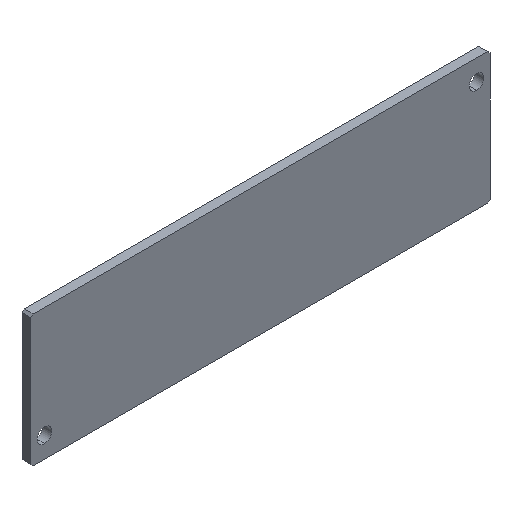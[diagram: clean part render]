
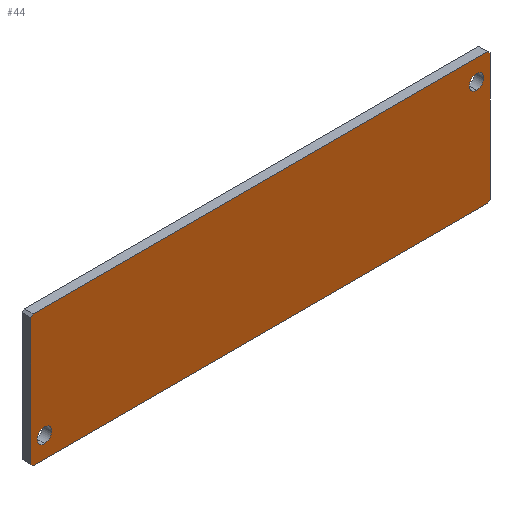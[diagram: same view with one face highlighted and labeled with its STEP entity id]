
A CAD part, isometric view. The second image highlights one B-rep face of the part: STEP entity #44.
In plain terms, the highlighted planar face has unit normal (0, -1, 0).
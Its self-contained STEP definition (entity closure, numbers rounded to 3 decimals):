
#14 = VERTEX_POINT ( 'NONE', #258 ) ;
#16 = CARTESIAN_POINT ( 'NONE',  ( 99., 0., -4.6 ) ) ;
#17 = EDGE_LOOP ( 'NONE', ( #379, #474, #34, #203, #79, #256, #317, #402 ) ) ;
#20 = AXIS2_PLACEMENT_3D ( 'NONE', #121, #50, #275 ) ;
#24 = DIRECTION ( 'NONE',  ( 1., 0., 0. ) ) ;
#28 = VECTOR ( 'NONE', #24, 1000. ) ;
#30 = CARTESIAN_POINT ( 'NONE',  ( 0.5, 0., 0. ) ) ;
#34 = ORIENTED_EDGE ( 'NONE', *, *, #52, .F. ) ;
#38 = LINE ( 'NONE', #303, #184 ) ;
#44 = ADVANCED_FACE ( 'NONE', ( #175, #292, #254 ), #65, .T. ) ;
#50 = DIRECTION ( 'NONE',  ( 0., -1., 0. ) ) ;
#52 = EDGE_CURVE ( 'NONE', #331, #165, #251, .T. ) ;
#54 = ORIENTED_EDGE ( 'NONE', *, *, #456, .F. ) ;
#59 = DIRECTION ( 'NONE',  ( -1., 0., 0. ) ) ;
#63 = CARTESIAN_POINT ( 'NONE',  ( 0., 0., 0. ) ) ;
#65 = PLANE ( 'NONE',  #370 ) ;
#79 = ORIENTED_EDGE ( 'NONE', *, *, #147, .F. ) ;
#82 = CARTESIAN_POINT ( 'NONE',  ( 50.75, 0., 50.75 ) ) ;
#83 = VERTEX_POINT ( 'NONE', #340 ) ;
#89 = CIRCLE ( 'NONE', #192, 1.6 ) ;
#93 = EDGE_LOOP ( 'NONE', ( #423, #54 ) ) ;
#94 = CARTESIAN_POINT ( 'NONE',  ( 99., 0., -3. ) ) ;
#97 = CIRCLE ( 'NONE', #313, 1.6 ) ;
#101 = DIRECTION ( 'NONE',  ( 0., -1., 0. ) ) ;
#109 = ORIENTED_EDGE ( 'NONE', *, *, #206, .F. ) ;
#121 = CARTESIAN_POINT ( 'NONE',  ( 99., 0., -4.6 ) ) ;
#124 = DIRECTION ( 'NONE',  ( 0., 0., -1. ) ) ;
#130 = VERTEX_POINT ( 'NONE', #307 ) ;
#131 = DIRECTION ( 'NONE',  ( 0., -1., 0. ) ) ;
#137 = EDGE_CURVE ( 'NONE', #196, #451, #97, .T. ) ;
#142 = VECTOR ( 'NONE', #414, 1000. ) ;
#143 = VECTOR ( 'NONE', #245, 1000. ) ;
#146 = CARTESIAN_POINT ( 'NONE',  ( 65.35, 0., -65.35 ) ) ;
#147 = EDGE_CURVE ( 'NONE', #83, #130, #38, .T. ) ;
#148 = DIRECTION ( 'NONE',  ( 0.707, 0., 0.707 ) ) ;
#161 = EDGE_CURVE ( 'NONE', #331, #130, #260, .T. ) ;
#162 = LINE ( 'NONE', #316, #421 ) ;
#165 = VERTEX_POINT ( 'NONE', #403 ) ;
#171 = CARTESIAN_POINT ( 'NONE',  ( 0., 0., 0. ) ) ;
#175 = FACE_BOUND ( 'NONE', #93, .T. ) ;
#179 = CARTESIAN_POINT ( 'NONE',  ( 0., 0., -0.5 ) ) ;
#184 = VECTOR ( 'NONE', #373, 1000. ) ;
#192 = AXIS2_PLACEMENT_3D ( 'NONE', #399, #131, #365 ) ;
#196 = VERTEX_POINT ( 'NONE', #369 ) ;
#202 = CARTESIAN_POINT ( 'NONE',  ( -14.35, 0., -14.35 ) ) ;
#203 = ORIENTED_EDGE ( 'NONE', *, *, #161, .T. ) ;
#205 = VERTEX_POINT ( 'NONE', #319 ) ;
#206 = EDGE_CURVE ( 'NONE', #371, #205, #263, .T. ) ;
#216 = ORIENTED_EDGE ( 'NONE', *, *, #291, .F. ) ;
#224 = VECTOR ( 'NONE', #148, 1000. ) ;
#225 = DIRECTION ( 'NONE',  ( 0., -1., 0. ) ) ;
#228 = CARTESIAN_POINT ( 'NONE',  ( 3., 0., -24.6 ) ) ;
#237 = DIRECTION ( 'NONE',  ( 0., -1., 0. ) ) ;
#238 = CIRCLE ( 'NONE', #271, 1.6 ) ;
#243 = LINE ( 'NONE', #171, #143 ) ;
#245 = DIRECTION ( 'NONE',  ( 0., 0., 1. ) ) ;
#251 = LINE ( 'NONE', #478, #305 ) ;
#254 = FACE_OUTER_BOUND ( 'NONE', #17, .T. ) ;
#256 = ORIENTED_EDGE ( 'NONE', *, *, #297, .T. ) ;
#258 = CARTESIAN_POINT ( 'NONE',  ( 0., 0., -28.7 ) ) ;
#260 = LINE ( 'NONE', #146, #224 ) ;
#263 = CIRCLE ( 'NONE', #20, 1.6 ) ;
#271 = AXIS2_PLACEMENT_3D ( 'NONE', #16, #237, #124 ) ;
#272 = LINE ( 'NONE', #202, #142 ) ;
#274 = EDGE_CURVE ( 'NONE', #14, #165, #272, .T. ) ;
#275 = DIRECTION ( 'NONE',  ( 0., 0., -1. ) ) ;
#280 = DIRECTION ( 'NONE',  ( -0.707, 0., -0.707 ) ) ;
#286 = CARTESIAN_POINT ( 'NONE',  ( 101.5, 0., 0. ) ) ;
#289 = DIRECTION ( 'NONE',  ( 0., 0., -1. ) ) ;
#291 = EDGE_CURVE ( 'NONE', #205, #371, #238, .T. ) ;
#292 = FACE_BOUND ( 'NONE', #352, .T. ) ;
#297 = EDGE_CURVE ( 'NONE', #83, #436, #351, .T. ) ;
#303 = CARTESIAN_POINT ( 'NONE',  ( 102., 0., 0. ) ) ;
#305 = VECTOR ( 'NONE', #59, 1000. ) ;
#307 = CARTESIAN_POINT ( 'NONE',  ( 102., 0., -28.7 ) ) ;
#313 = AXIS2_PLACEMENT_3D ( 'NONE', #228, #225, #335 ) ;
#316 = CARTESIAN_POINT ( 'NONE',  ( 0.25, 0., -0.25 ) ) ;
#317 = ORIENTED_EDGE ( 'NONE', *, *, #405, .F. ) ;
#319 = CARTESIAN_POINT ( 'NONE',  ( 99., 0., -6.2 ) ) ;
#326 = EDGE_CURVE ( 'NONE', #470, #415, #162, .T. ) ;
#331 = VERTEX_POINT ( 'NONE', #458 ) ;
#335 = DIRECTION ( 'NONE',  ( 0., 0., -1. ) ) ;
#336 = VECTOR ( 'NONE', #349, 1000. ) ;
#340 = CARTESIAN_POINT ( 'NONE',  ( 102., 0., -0.5 ) ) ;
#349 = DIRECTION ( 'NONE',  ( -0.707, 0., 0.707 ) ) ;
#351 = LINE ( 'NONE', #82, #336 ) ;
#352 = EDGE_LOOP ( 'NONE', ( #109, #216 ) ) ;
#365 = DIRECTION ( 'NONE',  ( 0., 0., -1. ) ) ;
#369 = CARTESIAN_POINT ( 'NONE',  ( 3., 0., -23. ) ) ;
#370 = AXIS2_PLACEMENT_3D ( 'NONE', #433, #101, #289 ) ;
#371 = VERTEX_POINT ( 'NONE', #94 ) ;
#373 = DIRECTION ( 'NONE',  ( 0., 0., -1. ) ) ;
#379 = ORIENTED_EDGE ( 'NONE', *, *, #442, .F. ) ;
#399 = CARTESIAN_POINT ( 'NONE',  ( 3., 0., -24.6 ) ) ;
#402 = ORIENTED_EDGE ( 'NONE', *, *, #326, .T. ) ;
#403 = CARTESIAN_POINT ( 'NONE',  ( 0.5, 0., -29.2 ) ) ;
#405 = EDGE_CURVE ( 'NONE', #470, #436, #477, .T. ) ;
#414 = DIRECTION ( 'NONE',  ( 0.707, 0., -0.707 ) ) ;
#415 = VERTEX_POINT ( 'NONE', #179 ) ;
#421 = VECTOR ( 'NONE', #280, 1000. ) ;
#423 = ORIENTED_EDGE ( 'NONE', *, *, #137, .F. ) ;
#432 = CARTESIAN_POINT ( 'NONE',  ( 3., 0., -26.2 ) ) ;
#433 = CARTESIAN_POINT ( 'NONE',  ( 0., 0., 0. ) ) ;
#436 = VERTEX_POINT ( 'NONE', #286 ) ;
#442 = EDGE_CURVE ( 'NONE', #14, #415, #243, .T. ) ;
#451 = VERTEX_POINT ( 'NONE', #432 ) ;
#456 = EDGE_CURVE ( 'NONE', #451, #196, #89, .T. ) ;
#458 = CARTESIAN_POINT ( 'NONE',  ( 101.5, 0., -29.2 ) ) ;
#470 = VERTEX_POINT ( 'NONE', #30 ) ;
#474 = ORIENTED_EDGE ( 'NONE', *, *, #274, .T. ) ;
#477 = LINE ( 'NONE', #63, #28 ) ;
#478 = CARTESIAN_POINT ( 'NONE',  ( 0., 0., -29.2 ) ) ;
